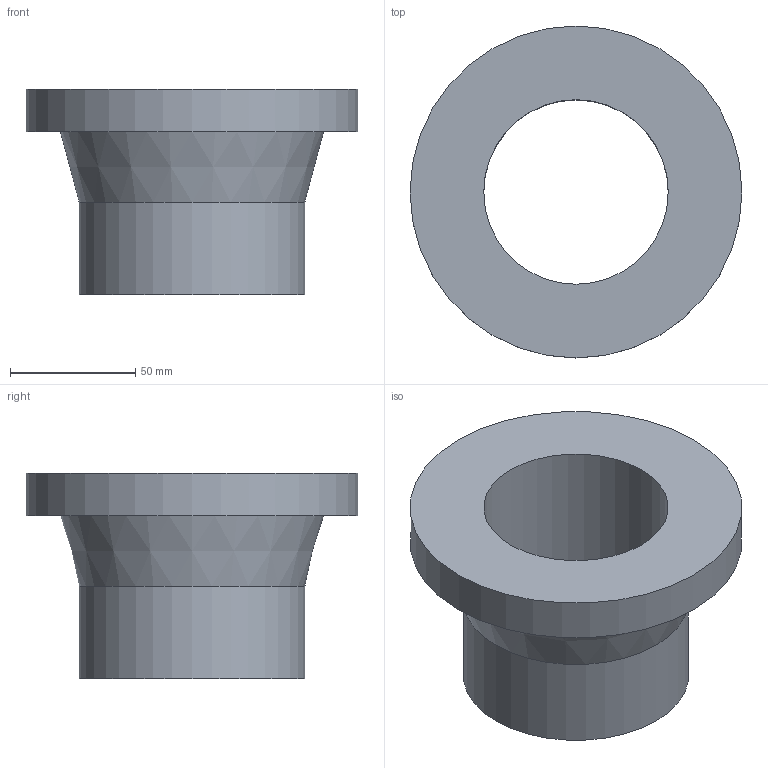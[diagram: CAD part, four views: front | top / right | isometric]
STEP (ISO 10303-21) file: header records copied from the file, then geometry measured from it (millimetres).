
FILE_DESCRIPTION (( 'STEP AP203' ), '1' );
FILE_NAME ('581135030.STEP', '2015-12-04T19:56:23', ( '' ), ( '' ), 'SwSTEP 2.0', 'SolidWorks 2015', '' );
FILE_SCHEMA (( 'CONFIG_CONTROL_DESIGN' ));
Length unit declared in the file: inch
Products named in the file (1): 581135030
Bounding box: 132.4 x 132.4 x 82 mm (x, y, z)
Volume: 330025.5 mm3; surface area: 62101 mm2
Topology: 1 solids, 1 shells, 7 faces, 11 edges, 7 vertices
Faces by surface type: cylinder 3, plane 3, cone 1
Full cylindrical faces by diameter (mm): 73.6 x1, 90 x1, 132.4 x1
Entity records: 227 total; most frequent: DIRECTION 30, CARTESIAN_POINT 22, AXIS2_PLACEMENT_3D 15, EDGE_LOOP 14, ORIENTED_EDGE 14, FACE_OUTER_BOUND 10, PERSON_AND_ORGANIZATION 8, VERTEX_POINT 7
